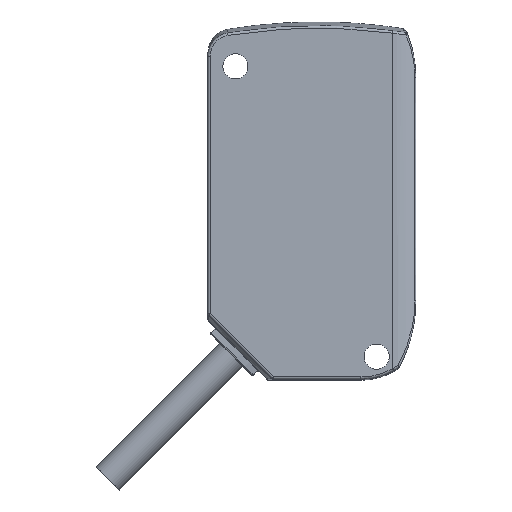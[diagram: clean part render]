
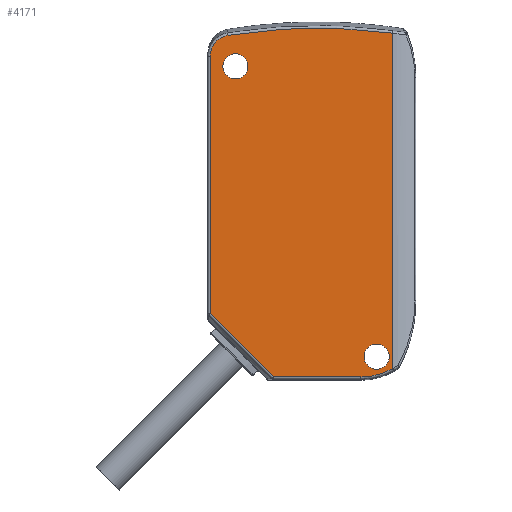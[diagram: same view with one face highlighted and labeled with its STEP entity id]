
A CAD part, left-side view. The second image highlights one B-rep face of the part: STEP entity #4171.
In plain terms, the highlighted planar face has unit normal (-1, 0, 0).
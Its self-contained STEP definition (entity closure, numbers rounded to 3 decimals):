
#318 = AXIS2_PLACEMENT_3D ( 'NONE', #5749, #3080, #11055 ) ;
#454 = VERTEX_POINT ( 'NONE', #10430 ) ;
#600 = CARTESIAN_POINT ( 'NONE',  ( -14., -102.565, 6.453 ) ) ;
#738 = CARTESIAN_POINT ( 'NONE',  ( -14., -100.574, 5.008 ) ) ;
#802 = CARTESIAN_POINT ( 'NONE',  ( -14., -103.5, 0.9 ) ) ;
#1015 = ORIENTED_EDGE ( 'NONE', *, *, #1427, .T. ) ;
#1427 = EDGE_CURVE ( 'NONE', #11557, #454, #4926, .T. ) ;
#1550 = EDGE_CURVE ( 'NONE', #7845, #11709, #5605, .T. ) ;
#1824 = DIRECTION ( 'NONE',  ( 1., 0., 0. ) ) ;
#1873 = VECTOR ( 'NONE', #8439, 1000. ) ;
#1947 = EDGE_CURVE ( 'NONE', #7327, #6332, #3891, .T. ) ;
#2033 = CARTESIAN_POINT ( 'NONE',  ( -14., -123.5, -41.452 ) ) ;
#2346 = DIRECTION ( 'NONE',  ( 0., 0., 1. ) ) ;
#2392 = CARTESIAN_POINT ( 'NONE',  ( -14., -114.819, 7.398 ) ) ;
#2418 = ORIENTED_EDGE ( 'NONE', *, *, #6217, .T. ) ;
#2488 = ORIENTED_EDGE ( 'NONE', *, *, #7196, .T. ) ;
#2501 = CARTESIAN_POINT ( 'NONE',  ( -14., -102.565, 6.453 ) ) ;
#2533 = VECTOR ( 'NONE', #8701, 1000. ) ;
#2569 = AXIS2_PLACEMENT_3D ( 'NONE', #4493, #3514, #10815 ) ;
#2619 = CIRCLE ( 'NONE', #6470, 1.6 ) ;
#3080 = DIRECTION ( 'NONE',  ( -1., 0., 0. ) ) ;
#3130 = CARTESIAN_POINT ( 'NONE',  ( -14., -123.1, -34.5 ) ) ;
#3150 = CIRCLE ( 'NONE', #8586, 1.6 ) ;
#3253 = DIRECTION ( 'NONE',  ( 1., 0., 0. ) ) ;
#3299 = CARTESIAN_POINT ( 'NONE',  ( -14., -120.035, 7.142 ) ) ;
#3315 = ORIENTED_EDGE ( 'NONE', *, *, #11345, .T. ) ;
#3441 = VECTOR ( 'NONE', #11074, 1000. ) ;
#3514 = DIRECTION ( 'NONE',  ( 1., 0., 0. ) ) ;
#3532 = CARTESIAN_POINT ( 'NONE',  ( -14., -102.249, 6.401 ) ) ;
#3577 = B_SPLINE_CURVE_WITH_KNOTS ( 'NONE', 3,
 ( #6038, #4358, #3299, #10580, #2392, #6070, #6004, #2501 ),
 .UNSPECIFIED., .F., .F.,
 ( 4, 2, 2, 4 ),
 ( 0.183, 0.189, 0.194, 0.204 ),
 .UNSPECIFIED. ) ;
#3666 = DIRECTION ( 'NONE',  ( 0., 0., 1. ) ) ;
#3693 = LINE ( 'NONE', #2033, #1873 ) ;
#3891 = B_SPLINE_CURVE_WITH_KNOTS ( 'NONE', 3,
 ( #8837, #5109, #11575, #738, #6912, #7025, #8873, #5404, #3532, #8134 ),
 .UNSPECIFIED., .F., .F.,
 ( 4, 2, 2, 2, 4 ),
 ( 0., 0.001, 0.002, 0.003, 0.004 ),
 .UNSPECIFIED. ) ;
#4023 = CARTESIAN_POINT ( 'NONE',  ( -14., -100.3, -29.172 ) ) ;
#4171 = ADVANCED_FACE ( 'NONE', ( #11285, #7996, #8868 ), #11415, .T. ) ;
#4248 = DIRECTION ( 'NONE',  ( 0., 0., 1. ) ) ;
#4358 = CARTESIAN_POINT ( 'NONE',  ( -14., -121.769, 6.969 ) ) ;
#4493 = CARTESIAN_POINT ( 'NONE',  ( -14., -103.5, 2.5 ) ) ;
#4589 = CIRCLE ( 'NONE', #318, 8.081 ) ;
#4926 = LINE ( 'NONE', #10475, #2533 ) ;
#5064 = CARTESIAN_POINT ( 'NONE',  ( -14., -121.5, -34.5 ) ) ;
#5109 = CARTESIAN_POINT ( 'NONE',  ( -14., -100.3, 4.095 ) ) ;
#5175 = ORIENTED_EDGE ( 'NONE', *, *, #1550, .T. ) ;
#5404 = CARTESIAN_POINT ( 'NONE',  ( -14., -101.951, 6.296 ) ) ;
#5470 = EDGE_CURVE ( 'NONE', #11709, #7845, #9419, .T. ) ;
#5548 = EDGE_CURVE ( 'NONE', #8267, #8969, #2619, .T. ) ;
#5605 = CIRCLE ( 'NONE', #2569, 1.6 ) ;
#5696 = ORIENTED_EDGE ( 'NONE', *, *, #5548, .T. ) ;
#5749 = CARTESIAN_POINT ( 'NONE',  ( -14., -119.5, -29. ) ) ;
#5811 = ORIENTED_EDGE ( 'NONE', *, *, #10673, .T. ) ;
#5866 = ORIENTED_EDGE ( 'NONE', *, *, #1947, .F. ) ;
#5927 = DIRECTION ( 'NONE',  ( -1., 0., 0. ) ) ;
#6004 = CARTESIAN_POINT ( 'NONE',  ( -14., -106.082, 7.03 ) ) ;
#6038 = CARTESIAN_POINT ( 'NONE',  ( -14., -123.5, 6.726 ) ) ;
#6070 = CARTESIAN_POINT ( 'NONE',  ( -14., -109.585, 7.332 ) ) ;
#6217 = EDGE_CURVE ( 'NONE', #454, #6935, #4589, .T. ) ;
#6332 = VERTEX_POINT ( 'NONE', #600 ) ;
#6446 = CARTESIAN_POINT ( 'NONE',  ( -14., -108.121, -36.869 ) ) ;
#6470 = AXIS2_PLACEMENT_3D ( 'NONE', #5064, #11405, #2346 ) ;
#6912 = CARTESIAN_POINT ( 'NONE',  ( -14., -100.736, 5.289 ) ) ;
#6935 = VERTEX_POINT ( 'NONE', #10024 ) ;
#7025 = CARTESIAN_POINT ( 'NONE',  ( -14., -101.15, 5.778 ) ) ;
#7086 = VERTEX_POINT ( 'NONE', #9309 ) ;
#7196 = EDGE_CURVE ( 'NONE', #7327, #7431, #7976, .T. ) ;
#7327 = VERTEX_POINT ( 'NONE', #7641 ) ;
#7398 = CARTESIAN_POINT ( 'NONE',  ( -14., -108.334, -37.081 ) ) ;
#7431 = VERTEX_POINT ( 'NONE', #11595 ) ;
#7641 = CARTESIAN_POINT ( 'NONE',  ( -14., -100.3, 3.775 ) ) ;
#7845 = VERTEX_POINT ( 'NONE', #9374 ) ;
#7948 = AXIS2_PLACEMENT_3D ( 'NONE', #11492, #5927, #4248 ) ;
#7976 = LINE ( 'NONE', #4023, #9252 ) ;
#7996 = FACE_BOUND ( 'NONE', #9649, .T. ) ;
#8134 = CARTESIAN_POINT ( 'NONE',  ( -14., -102.565, 6.453 ) ) ;
#8169 = CARTESIAN_POINT ( 'NONE',  ( -14., -121.5, -34.5 ) ) ;
#8267 = VERTEX_POINT ( 'NONE', #3130 ) ;
#8283 = CARTESIAN_POINT ( 'NONE',  ( -14., -119.9, -34.5 ) ) ;
#8439 = DIRECTION ( 'NONE',  ( 0., 0., -1. ) ) ;
#8586 = AXIS2_PLACEMENT_3D ( 'NONE', #8169, #1824, #3666 ) ;
#8588 = EDGE_LOOP ( 'NONE', ( #11239, #5696 ) ) ;
#8589 = CARTESIAN_POINT ( 'NONE',  ( -14., -103.5, 2.5 ) ) ;
#8649 = DIRECTION ( 'NONE',  ( 0., 0., -1. ) ) ;
#8701 = DIRECTION ( 'NONE',  ( 0., -1., 0. ) ) ;
#8837 = CARTESIAN_POINT ( 'NONE',  ( -14., -100.3, 3.775 ) ) ;
#8868 = FACE_BOUND ( 'NONE', #8588, .T. ) ;
#8873 = CARTESIAN_POINT ( 'NONE',  ( -14., -101.395, 5.98 ) ) ;
#8949 = EDGE_LOOP ( 'NONE', ( #2488, #3315, #1015, #2418, #10063, #5811, #5866 ) ) ;
#8969 = VERTEX_POINT ( 'NONE', #8283 ) ;
#9252 = VECTOR ( 'NONE', #8649, 1000. ) ;
#9309 = CARTESIAN_POINT ( 'NONE',  ( -14., -123.5, 6.726 ) ) ;
#9374 = CARTESIAN_POINT ( 'NONE',  ( -14., -103.5, 4.1 ) ) ;
#9419 = CIRCLE ( 'NONE', #10312, 1.6 ) ;
#9489 = DIRECTION ( 'NONE',  ( 0., 0., 1. ) ) ;
#9649 = EDGE_LOOP ( 'NONE', ( #5175, #10201 ) ) ;
#9878 = EDGE_CURVE ( 'NONE', #7086, #6935, #3693, .T. ) ;
#10024 = CARTESIAN_POINT ( 'NONE',  ( -14., -123.5, -36.022 ) ) ;
#10063 = ORIENTED_EDGE ( 'NONE', *, *, #9878, .F. ) ;
#10201 = ORIENTED_EDGE ( 'NONE', *, *, #5470, .T. ) ;
#10312 = AXIS2_PLACEMENT_3D ( 'NONE', #8589, #3253, #9489 ) ;
#10358 = LINE ( 'NONE', #6446, #3441 ) ;
#10430 = CARTESIAN_POINT ( 'NONE',  ( -14., -119.5, -37.081 ) ) ;
#10475 = CARTESIAN_POINT ( 'NONE',  ( -14., -124.35, -37.081 ) ) ;
#10580 = CARTESIAN_POINT ( 'NONE',  ( -14., -116.56, 7.355 ) ) ;
#10673 = EDGE_CURVE ( 'NONE', #7086, #6332, #3577, .T. ) ;
#10815 = DIRECTION ( 'NONE',  ( 0., 0., 1. ) ) ;
#11055 = DIRECTION ( 'NONE',  ( 0., 0., 1. ) ) ;
#11074 = DIRECTION ( 'NONE',  ( 0., -0.707, -0.707 ) ) ;
#11239 = ORIENTED_EDGE ( 'NONE', *, *, #11514, .T. ) ;
#11285 = FACE_OUTER_BOUND ( 'NONE', #8949, .T. ) ;
#11345 = EDGE_CURVE ( 'NONE', #7431, #11557, #10358, .T. ) ;
#11405 = DIRECTION ( 'NONE',  ( 1., 0., 0. ) ) ;
#11415 = PLANE ( 'NONE',  #7948 ) ;
#11492 = CARTESIAN_POINT ( 'NONE',  ( -14., -92.066, -41.452 ) ) ;
#11514 = EDGE_CURVE ( 'NONE', #8969, #8267, #3150, .T. ) ;
#11557 = VERTEX_POINT ( 'NONE', #7398 ) ;
#11575 = CARTESIAN_POINT ( 'NONE',  ( -14., -100.357, 4.414 ) ) ;
#11595 = CARTESIAN_POINT ( 'NONE',  ( -14., -100.3, -29.048 ) ) ;
#11709 = VERTEX_POINT ( 'NONE', #802 ) ;
